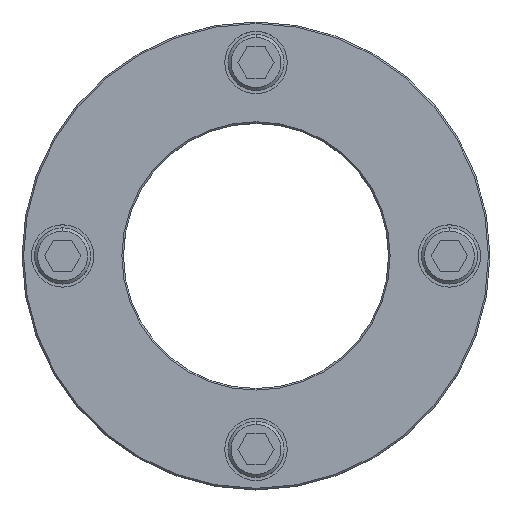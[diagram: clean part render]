
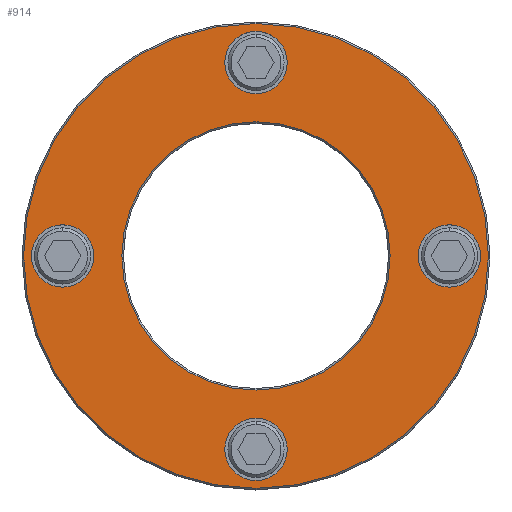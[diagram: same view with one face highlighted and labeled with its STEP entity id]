
A CAD part, top view. The second image highlights one B-rep face of the part: STEP entity #914.
In plain terms, the highlighted planar face has unit normal (0, 0, 1).
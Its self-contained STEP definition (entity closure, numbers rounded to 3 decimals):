
#105=VERTEX_POINT(' ',#106);
#106=CARTESIAN_POINT('',(0.,52.,20.));
#107=VERTEX_POINT(' ',#108);
#108=CARTESIAN_POINT('',(0.,72.,20.));
#113=VERTEX_POINT(' ',#114);
#114=CARTESIAN_POINT('',(0.,-72.,20.));
#115=VERTEX_POINT(' ',#116);
#116=CARTESIAN_POINT('',(0.,-52.,20.));
#125=VERTEX_POINT(' ',#126);
#126=CARTESIAN_POINT('',(62.,10.,20.));
#127=VERTEX_POINT(' ',#128);
#128=CARTESIAN_POINT('',(62.,-10.,20.));
#133=VERTEX_POINT(' ',#134);
#134=CARTESIAN_POINT('',(-62.,10.,20.));
#135=VERTEX_POINT(' ',#136);
#136=CARTESIAN_POINT('',(-62.,-10.,20.));
#155=VERTEX_POINT(' ',#156);
#156=CARTESIAN_POINT('',(0.,74.5,20.));
#157=VERTEX_POINT(' ',#158);
#158=CARTESIAN_POINT('',(0.,-74.5,20.));
#161=VERTEX_POINT(' ',#162);
#162=CARTESIAN_POINT('',(0.,-43.,20.));
#163=VERTEX_POINT(' ',#164);
#164=CARTESIAN_POINT('',(0.,43.,20.));
#253=CIRCLE('',#254,10.);
#254=AXIS2_PLACEMENT_3D('',#255,#256,#257);
#255=CARTESIAN_POINT('',(0.,62.,20.));
#256=DIRECTION('',(0.,0.,-1.));
#257=DIRECTION('',(-1.,0.,0.));
#258=EDGE_CURVE(' ',#105,#107,#253,.F.);
#275=CIRCLE('',#276,10.);
#276=AXIS2_PLACEMENT_3D('',#277,#278,#279);
#277=CARTESIAN_POINT('',(0.,62.,20.));
#278=DIRECTION('',(0.,0.,-1.));
#279=DIRECTION('',(1.,0.,0.));
#280=EDGE_CURVE(' ',#107,#105,#275,.F.);
#287=CIRCLE('',#288,10.);
#288=AXIS2_PLACEMENT_3D('',#289,#290,#291);
#289=CARTESIAN_POINT('',(0.,-62.,20.));
#290=DIRECTION('',(0.,0.,-1.));
#291=DIRECTION('',(-1.,0.,0.));
#292=EDGE_CURVE(' ',#113,#115,#287,.F.);
#309=CIRCLE('',#310,10.);
#310=AXIS2_PLACEMENT_3D('',#311,#312,#313);
#311=CARTESIAN_POINT('',(0.,-62.,20.));
#312=DIRECTION('',(0.,0.,-1.));
#313=DIRECTION('',(1.,0.,0.));
#314=EDGE_CURVE(' ',#115,#113,#309,.F.);
#332=CIRCLE('',#333,10.);
#333=AXIS2_PLACEMENT_3D('',#334,#335,#336);
#334=CARTESIAN_POINT('',(62.,0.,20.));
#335=DIRECTION('',(0.,0.,1.));
#336=DIRECTION('',(1.,0.,0.));
#337=EDGE_CURVE(' ',#125,#127,#332,.T.);
#349=CIRCLE('',#350,10.);
#350=AXIS2_PLACEMENT_3D('',#351,#352,#353);
#351=CARTESIAN_POINT('',(62.,0.,20.));
#352=DIRECTION('',(0.,0.,1.));
#353=DIRECTION('',(-1.,0.,0.));
#354=EDGE_CURVE(' ',#127,#125,#349,.T.);
#366=CIRCLE('',#367,10.);
#367=AXIS2_PLACEMENT_3D('',#368,#369,#370);
#368=CARTESIAN_POINT('',(-62.,0.,20.));
#369=DIRECTION('',(0.,0.,1.));
#370=DIRECTION('',(1.,0.,0.));
#371=EDGE_CURVE(' ',#133,#135,#366,.T.);
#383=CIRCLE('',#384,10.);
#384=AXIS2_PLACEMENT_3D('',#385,#386,#387);
#385=CARTESIAN_POINT('',(-62.,0.,20.));
#386=DIRECTION('',(0.,0.,1.));
#387=DIRECTION('',(-1.,0.,0.));
#388=EDGE_CURVE(' ',#135,#133,#383,.T.);
#462=CIRCLE('',#463,74.5);
#463=AXIS2_PLACEMENT_3D('',#464,#465,#466);
#464=CARTESIAN_POINT('',(0.,0.,20.));
#465=DIRECTION('',(0.,0.,1.));
#466=DIRECTION('',(-1.,0.,0.));
#467=EDGE_CURVE(' ',#155,#157,#462,.F.);
#485=CIRCLE('',#486,74.5);
#486=AXIS2_PLACEMENT_3D('',#487,#488,#489);
#487=CARTESIAN_POINT('',(0.,0.,20.));
#488=DIRECTION('',(0.,0.,1.));
#489=DIRECTION('',(1.,0.,0.));
#490=EDGE_CURVE(' ',#157,#155,#485,.F.);
#491=CIRCLE('',#492,43.);
#492=AXIS2_PLACEMENT_3D('',#493,#494,#495);
#493=CARTESIAN_POINT('',(0.,0.,20.));
#494=DIRECTION('',(0.,0.,-1.));
#495=DIRECTION('',(1.,0.,0.));
#496=EDGE_CURVE(' ',#163,#161,#491,.F.);
#497=CIRCLE('',#498,43.);
#498=AXIS2_PLACEMENT_3D('',#499,#500,#501);
#499=CARTESIAN_POINT('',(0.,0.,20.));
#500=DIRECTION('',(0.,0.,-1.));
#501=DIRECTION('',(-1.,0.,0.));
#502=EDGE_CURVE(' ',#161,#163,#497,.F.);
#885=ORIENTED_EDGE('',*,*,#467,.F.);
#886=ORIENTED_EDGE('',*,*,#490,.F.);
#887=EDGE_LOOP('',(#885,#886));
#888=FACE_OUTER_BOUND('',#887,.T.);
#889=ORIENTED_EDGE('',*,*,#496,.F.);
#890=ORIENTED_EDGE('',*,*,#502,.F.);
#891=EDGE_LOOP('',(#889,#890));
#892=FACE_BOUND('',#891,.T.);
#893=ORIENTED_EDGE('',*,*,#388,.F.);
#894=ORIENTED_EDGE('',*,*,#371,.F.);
#895=EDGE_LOOP('',(#893,#894));
#896=FACE_BOUND('',#895,.T.);
#897=ORIENTED_EDGE('',*,*,#354,.F.);
#898=ORIENTED_EDGE('',*,*,#337,.F.);
#899=EDGE_LOOP('',(#897,#898));
#900=FACE_BOUND('',#899,.T.);
#901=ORIENTED_EDGE('',*,*,#314,.F.);
#902=ORIENTED_EDGE('',*,*,#292,.F.);
#903=EDGE_LOOP('',(#901,#902));
#904=FACE_BOUND('',#903,.T.);
#905=ORIENTED_EDGE('',*,*,#280,.F.);
#906=ORIENTED_EDGE('',*,*,#258,.F.);
#907=EDGE_LOOP('',(#905,#906));
#908=FACE_BOUND('',#907,.T.);
#909=PLANE('',#910);
#910=AXIS2_PLACEMENT_3D('',#911,#912,#913);
#911=CARTESIAN_POINT('',(75.,0.,20.));
#912=DIRECTION('',(0.,0.,1.));
#913=DIRECTION('',(0.,1.,0.));
#914=ADVANCED_FACE('',(#888,#892,#896,#900,#904,#908),#909,.T.);
